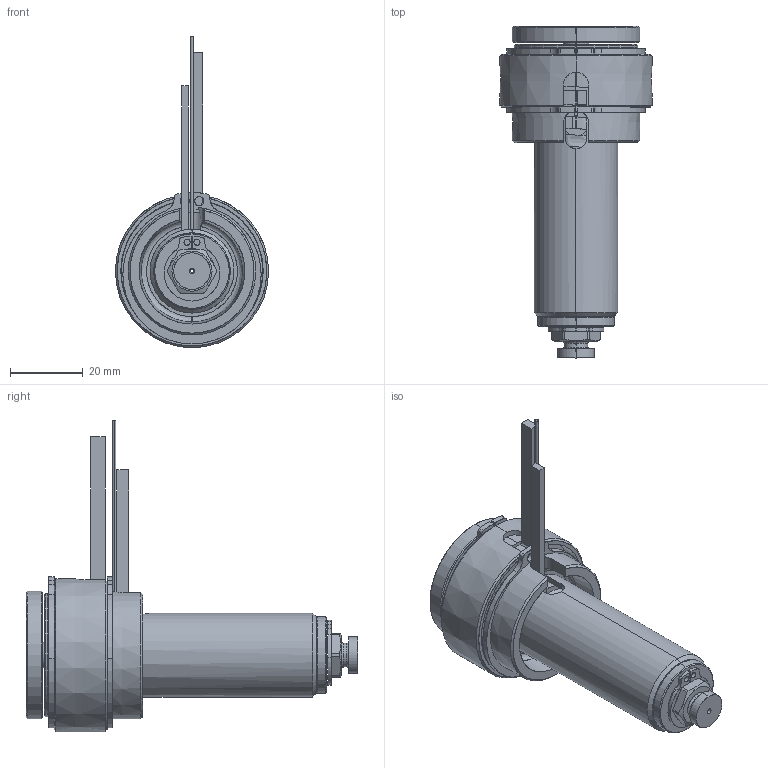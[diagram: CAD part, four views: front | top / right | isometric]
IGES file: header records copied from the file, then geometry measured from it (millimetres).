
Start section: SolidWorks IGES file using analytic representation for surfaces
Global section: file name: C:\Users\luca.EMPAD\Desktop\TEM\UGBE3501-S-A-3 [Ød-1.0 P-0 ØC-7.0].IGS; native system: SolidWorks 2012; preprocessor: SolidWorks 2012; author: luca; date: 120330.140327; units: millimetre
Bounding box: 42 x 91 x 85.4 mm (x, y, z)
Surface area: 27749.6 mm2 (no closed solid volume)
Topology: 0 solids, 0 shells, 194 faces, 3590 edges, 3590 vertices
Faces by surface type: revolution 124, bspline 70
